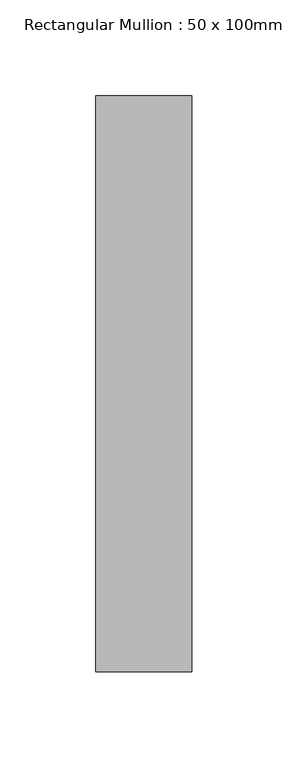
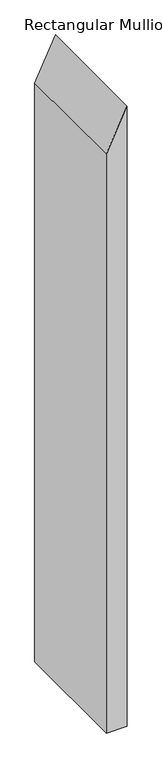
"""IFC4 building model written with IfcOpenShell, lengths in millimetres: member geometry, Rectangular Mullion : 50 x 100mm."""

from ifc_helpers import new_model, si_unit, frame, origin, place, context, project, spatial, polyline, outline, extrude, source, transform, mapped, element, save


def rectangular_mullion_50_x_100mm_a3d3c9c7(model_context):
    return source(origin(), model_context, "Body", "SweptSolid", [
        extrude(outline(polyline([(0.0, 0.0), (-105.5913796, -50.0), (-1585.5166831, -50.0), (-1585.5166831, 0.0), (0.0, 0.0)])), frame((0.0, -125.0, 0.0), z_axis=(0.0, 1.0, 0.0), x_axis=(0.0, 0.0, 1.0)), (0.0, 0.0, 1.0), 300.0),
    ])


if __name__ == "__main__":
    model = new_model("IFC4")
    model_context = context("Model", 3, world=origin())
    ifc_project = project(units=[si_unit("LENGTHUNIT", "METRE", prefix="MILLI")], contexts=[model_context])
    site = spatial("IfcSite", under=ifc_project)
    building = spatial("IfcBuilding", under=site)
    placement = place(None, origin())
    rectangular_mullion_50_x_100mm_shape = rectangular_mullion_50_x_100mm_a3d3c9c7(model_context)
    element("IfcMember", 1, ObjectType="Rectangular Mullion : 50 x 100mm", at=placement, inside=building, context=model_context, shape_type="MappedRepresentation", body=[
        mapped(rectangular_mullion_50_x_100mm_shape, transform((0.0, 0.0, 0.0), x_axis=(1.0, 0.0, 0.0), y_axis=(0.0, 1.0, 0.0), z_axis=(0.0, 0.0, 1.0))),
    ])
    save(model, "model.ifc")
